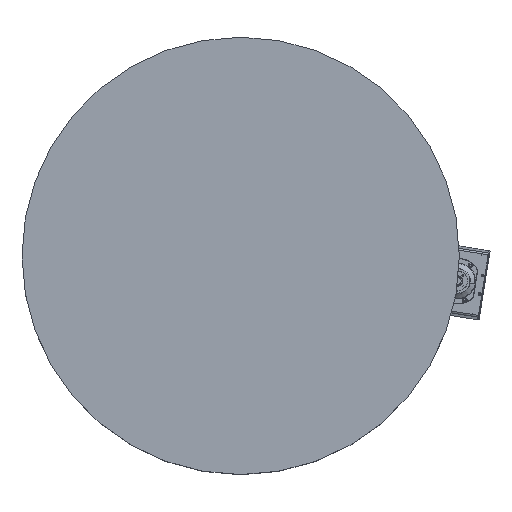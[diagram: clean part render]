
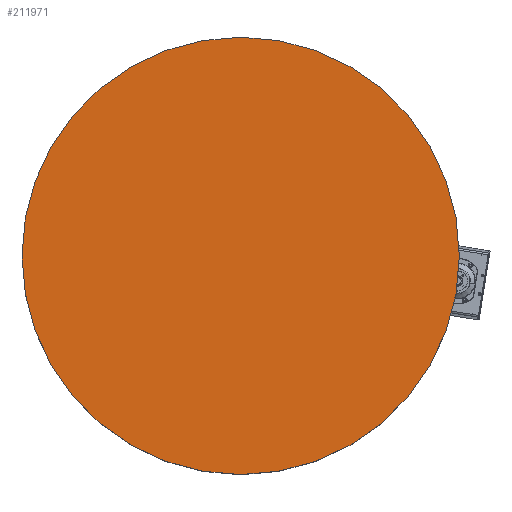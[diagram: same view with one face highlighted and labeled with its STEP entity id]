
A CAD part, top view. The second image highlights one B-rep face of the part: STEP entity #211971.
In plain terms, the highlighted planar face has unit normal (0, 0, 1) as drawn and (0, -1, 0) by its records, which use the part's own axes.
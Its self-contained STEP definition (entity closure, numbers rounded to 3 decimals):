
#4673 = DIRECTION ( 'NONE',  ( 0., 1., 0. ) ) ;
#7785 = ORIENTED_EDGE ( 'NONE', *, *, #34754, .F. ) ;
#12204 = DIRECTION ( 'NONE',  ( 0., 0., 1. ) ) ;
#34754 = EDGE_CURVE ( 'NONE', #105529, #184759, #35648, .T. ) ;
#35648 = CIRCLE ( 'NONE', #202505, 350. ) ;
#46965 = CARTESIAN_POINT ( 'NONE',  ( 0., 0., 0. ) ) ;
#73327 = CIRCLE ( 'NONE', #225980, 350. ) ;
#97136 = PLANE ( 'NONE',  #105259 ) ;
#99443 = CARTESIAN_POINT ( 'NONE',  ( 0., 0., 0. ) ) ;
#105259 = AXIS2_PLACEMENT_3D ( 'NONE', #99443, #131969, #221401 ) ;
#105529 = VERTEX_POINT ( 'NONE', #211996 ) ;
#131969 = DIRECTION ( 'NONE',  ( 0., 1., 0. ) ) ;
#147518 = DIRECTION ( 'NONE',  ( 0., 0., 1. ) ) ;
#150281 = EDGE_LOOP ( 'NONE', ( #7785, #189554 ) ) ;
#165946 = CARTESIAN_POINT ( 'NONE',  ( 0., 0., 0. ) ) ;
#170455 = DIRECTION ( 'NONE',  ( 0., 1., 0. ) ) ;
#184759 = VERTEX_POINT ( 'NONE', #220751 ) ;
#189554 = ORIENTED_EDGE ( 'NONE', *, *, #218704, .F. ) ;
#202505 = AXIS2_PLACEMENT_3D ( 'NONE', #165946, #4673, #147518 ) ;
#206074 = FACE_OUTER_BOUND ( 'NONE', #150281, .T. ) ;
#211971 = ADVANCED_FACE ( 'NONE', ( #206074 ), #97136, .F. ) ;
#211996 = CARTESIAN_POINT ( 'NONE',  ( 0., 0., -350. ) ) ;
#218704 = EDGE_CURVE ( 'NONE', #184759, #105529, #73327, .T. ) ;
#220751 = CARTESIAN_POINT ( 'NONE',  ( 0., 0., 350. ) ) ;
#221401 = DIRECTION ( 'NONE',  ( 0., 0., 1. ) ) ;
#225980 = AXIS2_PLACEMENT_3D ( 'NONE', #46965, #170455, #12204 ) ;
